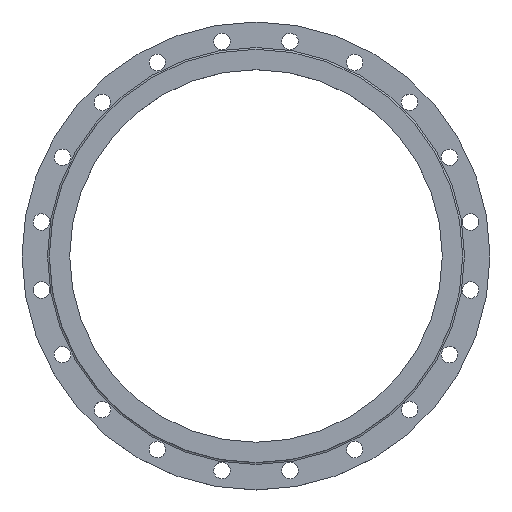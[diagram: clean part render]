
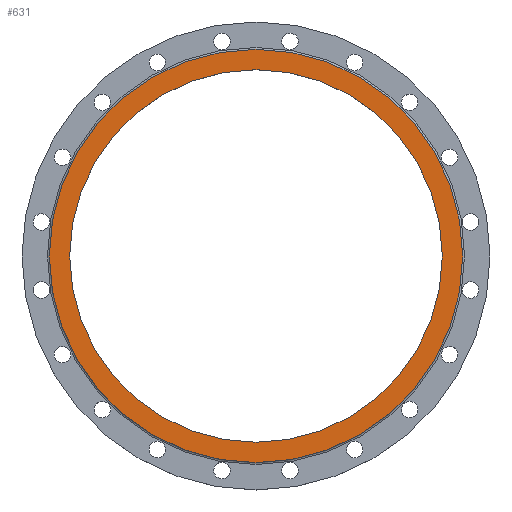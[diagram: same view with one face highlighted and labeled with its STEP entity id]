
A CAD part, top view. The second image highlights one B-rep face of the part: STEP entity #631.
In plain terms, the highlighted planar face has unit normal (0, 0, 1).
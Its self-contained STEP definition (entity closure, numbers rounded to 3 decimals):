
#129=FACE_BOUND('',#231,.T.);
#158=FACE_OUTER_BOUND('',#230,.T.);
#230=EDGE_LOOP('',(#595,#596));
#231=EDGE_LOOP('',(#597,#598));
#257=CIRCLE('',#679,340.);
#258=CIRCLE('',#680,340.);
#290=CIRCLE('',#738,306.5);
#291=CIRCLE('',#739,306.5);
#316=VERTEX_POINT('',#995);
#317=VERTEX_POINT('',#997);
#348=VERTEX_POINT('',#1109);
#349=VERTEX_POINT('',#1111);
#375=EDGE_CURVE('',#317,#316,#257,.T.);
#376=EDGE_CURVE('',#316,#317,#258,.T.);
#431=EDGE_CURVE('',#349,#348,#290,.T.);
#432=EDGE_CURVE('',#348,#349,#291,.T.);
#595=ORIENTED_EDGE('',*,*,#375,.T.);
#596=ORIENTED_EDGE('',*,*,#376,.T.);
#597=ORIENTED_EDGE('',*,*,#431,.T.);
#598=ORIENTED_EDGE('',*,*,#432,.T.);
#602=PLANE('',#740);
#631=ADVANCED_FACE('',(#158,#129),#602,.T.);
#679=AXIS2_PLACEMENT_3D('',#998,#797,#798);
#680=AXIS2_PLACEMENT_3D('',#999,#799,#800);
#738=AXIS2_PLACEMENT_3D('',#1112,#938,#939);
#739=AXIS2_PLACEMENT_3D('',#1113,#940,#941);
#740=AXIS2_PLACEMENT_3D('',#1114,#942,#943);
#797=DIRECTION('center_axis',(0.,0.,1.));
#798=DIRECTION('ref_axis',(-1.,0.,0.));
#799=DIRECTION('center_axis',(0.,0.,1.));
#800=DIRECTION('ref_axis',(-1.,0.,0.));
#938=DIRECTION('center_axis',(0.,0.,-1.));
#939=DIRECTION('ref_axis',(1.,0.,0.));
#940=DIRECTION('center_axis',(0.,0.,-1.));
#941=DIRECTION('ref_axis',(1.,0.,0.));
#942=DIRECTION('center_axis',(0.,0.,1.));
#943=DIRECTION('ref_axis',(1.,0.,0.));
#995=CARTESIAN_POINT('',(340.,0.,0.));
#997=CARTESIAN_POINT('',(-340.,0.,0.));
#998=CARTESIAN_POINT('Origin',(0.,0.,0.));
#999=CARTESIAN_POINT('Origin',(0.,0.,0.));
#1109=CARTESIAN_POINT('',(306.5,0.,0.));
#1111=CARTESIAN_POINT('',(-306.5,0.,0.));
#1112=CARTESIAN_POINT('Origin',(0.,0.,0.));
#1113=CARTESIAN_POINT('Origin',(0.,0.,0.));
#1114=CARTESIAN_POINT('Origin',(-385.,0.,0.));
